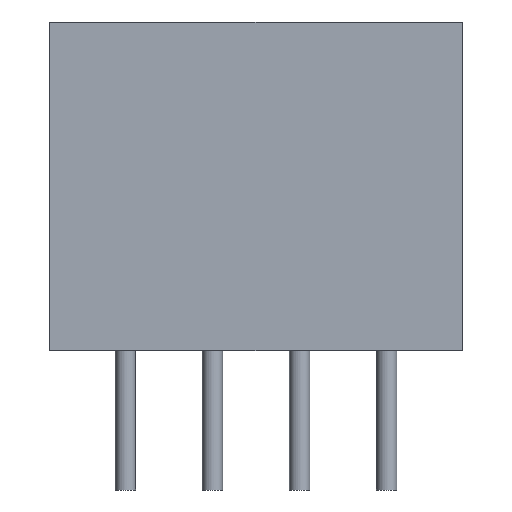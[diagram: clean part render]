
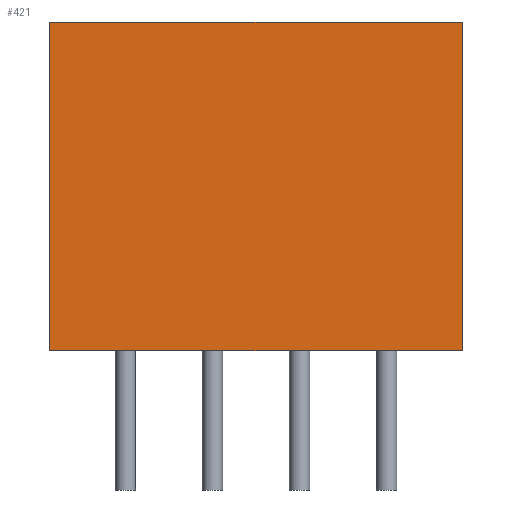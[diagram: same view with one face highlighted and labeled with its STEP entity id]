
A CAD part, front view. The second image highlights one B-rep face of the part: STEP entity #421.
In plain terms, the highlighted planar face has unit normal (0, -1, 0).
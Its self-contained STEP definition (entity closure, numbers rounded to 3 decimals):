
#421=ADVANCED_FACE('',(#427),#422,.T.);
#422=PLANE('',#423);
#423=AXIS2_PLACEMENT_3D('',#424,#425,#426);
#424=CARTESIAN_POINT('',(-3.302,-3.302,0.0));
#425=DIRECTION('',(0.0,-1.0,0.0));
#426=DIRECTION('',(0.,0.,1.));
#427=FACE_OUTER_BOUND('',#428,.T.);
#428=EDGE_LOOP('',(#429,#439,#449,#459));
#432=CARTESIAN_POINT('',(14.732,-3.302,0.0));
#431=VERTEX_POINT('',#432);
#434=CARTESIAN_POINT('',(-3.302,-3.302,0.0));
#433=VERTEX_POINT('',#434);
#430=EDGE_CURVE('',#431,#433,#435,.T.);
#435=LINE('',#432,#437);
#437=VECTOR('',#438,18.034);
#438=DIRECTION('',(-1.0,0.0,0.0));
#429=ORIENTED_EDGE('',*,*,#430,.F.);
#442=CARTESIAN_POINT('',(14.732,-3.302,14.376));
#441=VERTEX_POINT('',#442);
#440=EDGE_CURVE('',#441,#431,#445,.T.);
#445=LINE('',#442,#447);
#447=VECTOR('',#448,14.376);
#448=DIRECTION('',(0.0,0.0,-1.0));
#439=ORIENTED_EDGE('',*,*,#440,.F.);
#452=CARTESIAN_POINT('',(-3.302,-3.302,14.376));
#451=VERTEX_POINT('',#452);
#450=EDGE_CURVE('',#451,#441,#455,.T.);
#455=LINE('',#452,#457);
#457=VECTOR('',#458,18.034);
#458=DIRECTION('',(1.0,0.0,0.0));
#449=ORIENTED_EDGE('',*,*,#450,.F.);
#460=EDGE_CURVE('',#433,#451,#465,.T.);
#465=LINE('',#434,#467);
#467=VECTOR('',#468,14.376);
#468=DIRECTION('',(0.0,0.0,1.0));
#459=ORIENTED_EDGE('',*,*,#460,.F.);
